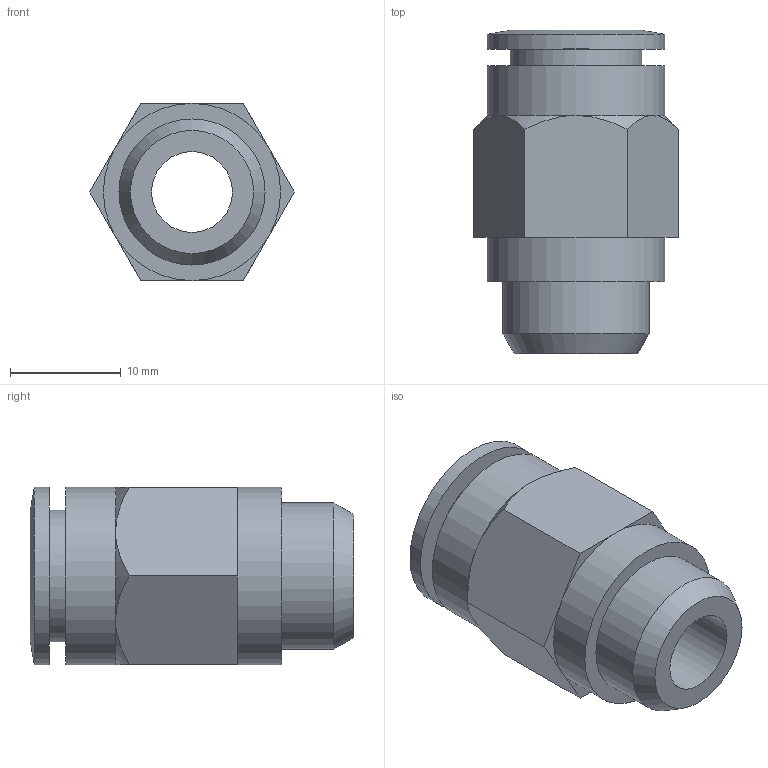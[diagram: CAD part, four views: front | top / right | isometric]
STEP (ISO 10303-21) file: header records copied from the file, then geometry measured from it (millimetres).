
FILE_DESCRIPTION((''),'2;1');
FILE_NAME('C:\Documents and Settings\rivolro1\Documenti\copia di Raccordi\T01XXXX\T011014.stp','2007-10-30T15:14:32',('Rivolro1'),(''),'Autodesk Inventor 2008','Autodesk Inventor 2008','');
FILE_SCHEMA(('AUTOMOTIVE_DESIGN { 1 0 10303 214 1 1 1 1 }'));
Length unit declared in the file: millimetre
Products named in the file (1): T011014
Bounding box: 18.48 x 29.2 x 16 mm (x, y, z)
Volume: 3437.2 mm3; surface area: 2778.9 mm2
Topology: 1 solids, 1 shells, 33 faces, 67 edges, 40 vertices
Faces by surface type: plane 18, cone 8, cylinder 6, bspline 1
Full cylindrical faces by diameter (mm): 10.2 x1, 11.9 x1, 13.2 x1, 16 x3
Entity records: 839 total; most frequent: CARTESIAN_POINT 169, DIRECTION 136, ORIENTED_EDGE 112, AXIS2_PLACEMENT_3D 59, EDGE_CURVE 56, EDGE_LOOP 48, VERTEX_POINT 38, FACE_OUTER_BOUND 33
